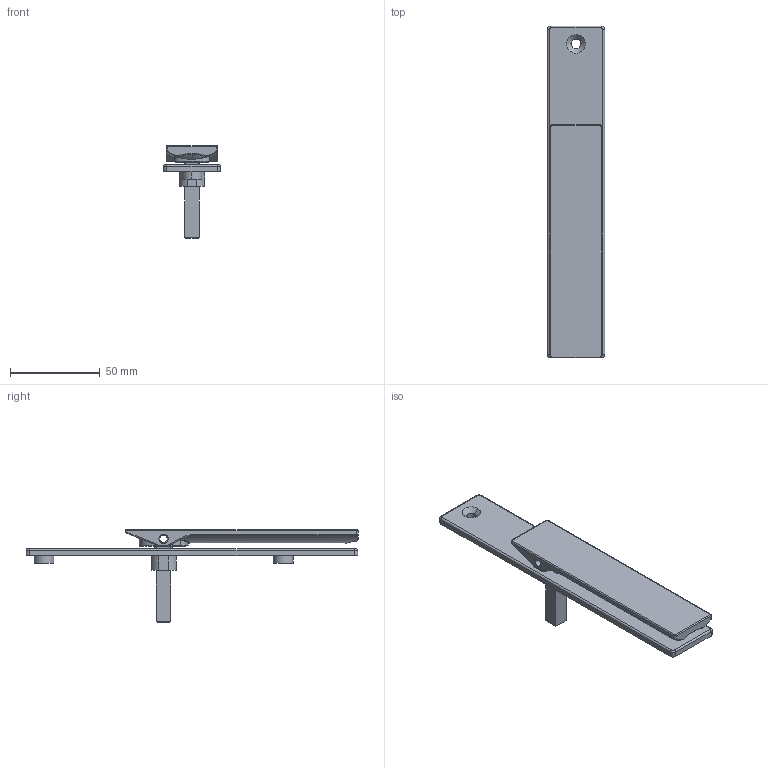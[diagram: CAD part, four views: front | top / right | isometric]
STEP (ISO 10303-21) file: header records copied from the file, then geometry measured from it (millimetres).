
FILE_DESCRIPTION (( 'STEP AP203' ), '1' );
FILE_NAME ('TPL-SS-002-C 22Apr2026.STEP', '2026-04-22T23:06:11', ( '' ), ( '' ), 'SwSTEP 2.0', 'SolidWorks 2023', '' );
FILE_SCHEMA (( 'CONFIG_CONTROL_DESIGN' ));
Length unit declared in the file: millimetre
Products named in the file (6): Copy of LKC-585 Rotator body zinc - simplified^TPGen2 handle non-keyed SS - simplified; Copy of LKC-584 Pivot body zinc - simplified^TPGen2 handle non-keyed SS - simplified; TPL-SS-002-C 22Apr2026; Copy of LKC-586 Spindle square 8mm with M4 hole - simplified^TPGen2 handle non-keyed SS - simplified_37mm; Copy of LKC-506 Swing handle SS - simplified^TPGen2 handle non-keyed SS - simplified; Copy of Escutcheon plate unkeyed 185mm - simplified^TPGen2 handle non-keyed SS - simplified
Assembly tree (5 placements, depth 2):
  TPL-SS-002-C 22Apr2026
    Copy of Escutcheon plate unkeyed 185mm - simplified^TPGen2 handle non-keyed SS - simplified
    Copy of LKC-586 Spindle square 8mm with M4 hole - simplified^TPGen2 handle non-keyed SS - simplified_37mm
    Copy of LKC-584 Pivot body zinc - simplified^TPGen2 handle non-keyed SS - simplified
    Copy of LKC-585 Rotator body zinc - simplified^TPGen2 handle non-keyed SS - simplified
    Copy of LKC-506 Swing handle SS - simplified^TPGen2 handle non-keyed SS - simplified
Bounding box: 32 x 185.25 x 51.55 mm (x, y, z)
Volume: 48873.9 mm3; surface area: 27668.3 mm2
Topology: 5 solids, 5 shells, 285 faces, 678 edges, 408 vertices
Faces by surface type: cylinder 105, plane 78, bspline 44, torus 36, cone 20, sphere 2
Entity records: 9836 total; most frequent: CARTESIAN_POINT 2865, ORIENTED_EDGE 1352, DIRECTION 1333, EDGE_CURVE 676, AXIS2_PLACEMENT_3D 528, VERTEX_POINT 408, EDGE_LOOP 314, FACE_OUTER_BOUND 285
